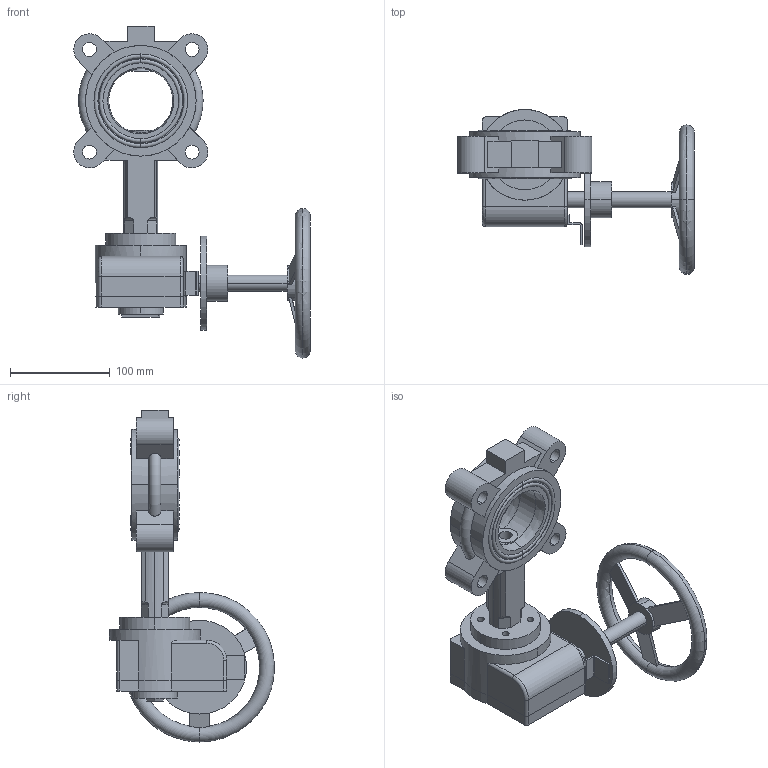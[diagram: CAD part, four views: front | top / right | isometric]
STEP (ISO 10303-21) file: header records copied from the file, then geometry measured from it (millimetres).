
FILE_DESCRIPTION (( 'STEP AP203' ), '1' );
FILE_NAME ('DN65凸耳涡轮头2.5寸.STEP', '2026-06-10T06:18:54', ( '微软用户' ), ( '微软中国' ), 'SwSTEP 2.0', 'SolidWorks 2024', '' );
FILE_SCHEMA (( 'CONFIG_CONTROL_DESIGN' ));
Length unit declared in the file: millimetre
Products named in the file (4): 2寸涡轮头; 衬胶2.5寸; 65凸耳，3.8_step; DN65凸耳涡轮头2.5寸
Assembly tree (3 placements, depth 2):
  DN65凸耳涡轮头2.5寸
    65凸耳，3.8_step
    衬胶2.5寸
    2寸涡轮头
Bounding box: 237.24 x 165.5 x 333 mm (x, y, z)
Volume: 1277345.1 mm3; surface area: 264845.7 mm2
Topology: 6 solids, 6 shells, 280 faces, 713 edges, 460 vertices
Faces by surface type: plane 131, cylinder 113, cone 20, torus 16
Entity records: 9923 total; most frequent: CARTESIAN_POINT 2585, DIRECTION 1489, ORIENTED_EDGE 1422, EDGE_CURVE 711, AXIS2_PLACEMENT_3D 570, VERTEX_POINT 460, VECTOR 349, LINE 349
